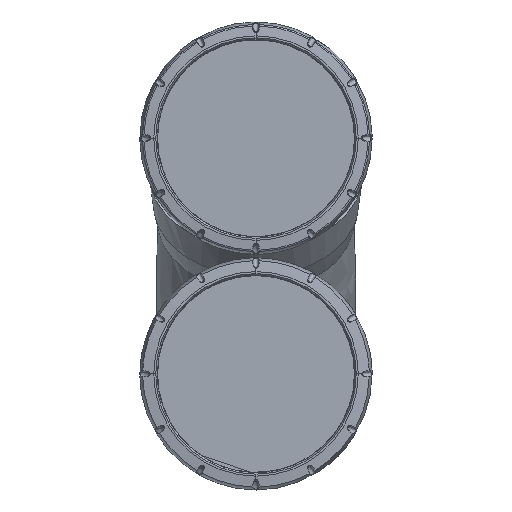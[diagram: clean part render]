
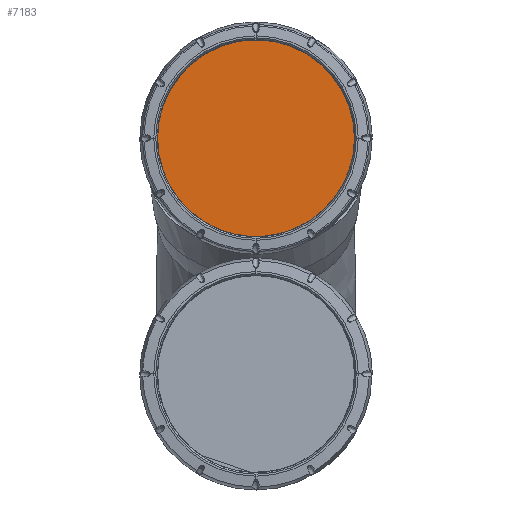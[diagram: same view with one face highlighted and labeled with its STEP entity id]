
A CAD part, top view. The second image highlights one B-rep face of the part: STEP entity #7183.
In plain terms, the highlighted planar face has unit normal (0, 0, 1).
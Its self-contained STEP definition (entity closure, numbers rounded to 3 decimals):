
#1234=FACE_OUTER_BOUND('',#1652,.T.);
#1652=EDGE_LOOP('',(#6302,#6303));
#2478=CIRCLE('',#7807,55.5);
#2479=CIRCLE('',#7809,55.5);
#3125=VERTEX_POINT('',#32918);
#3126=VERTEX_POINT('',#32919);
#4182=EDGE_CURVE('',#3125,#3126,#2478,.T.);
#4185=EDGE_CURVE('',#3126,#3125,#2479,.T.);
#6302=ORIENTED_EDGE('',*,*,#4185,.T.);
#6303=ORIENTED_EDGE('',*,*,#4182,.T.);
#6350=PLANE('',#7810);
#7183=ADVANCED_FACE('',(#1234),#6350,.T.);
#7807=AXIS2_PLACEMENT_3D('',#32920,#9254,#9255);
#7809=AXIS2_PLACEMENT_3D('',#32924,#9260,#9261);
#7810=AXIS2_PLACEMENT_3D('',#32925,#9262,#9263);
#9254=DIRECTION('center_axis',(0.,0.,
1.));
#9255=DIRECTION('ref_axis',(0.,-1.,0.));
#9260=DIRECTION('center_axis',(0.,0.,
1.));
#9261=DIRECTION('ref_axis',(0.,1.,0.));
#9262=DIRECTION('center_axis',(0.,0.,
1.));
#9263=DIRECTION('ref_axis',(1.,0.,0.));
#32918=CARTESIAN_POINT('',(-55.5,132.9,189.942));
#32919=CARTESIAN_POINT('',(55.5,132.9,189.942));
#32920=CARTESIAN_POINT('Origin',(0.,132.902,
189.942));
#32924=CARTESIAN_POINT('Origin',(0.,132.898,
189.942));
#32925=CARTESIAN_POINT('Origin',(-55.5,75.916,189.942));
